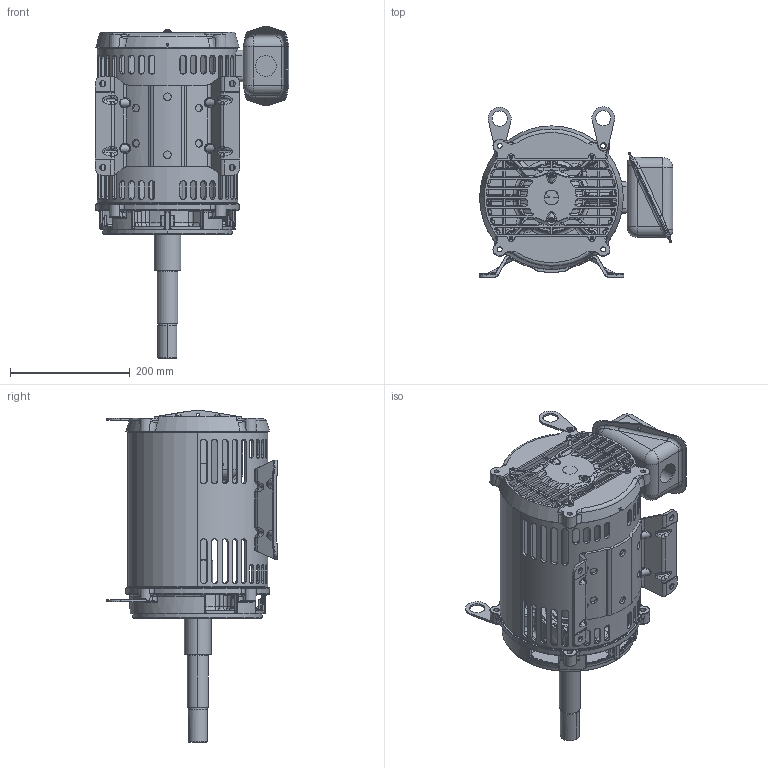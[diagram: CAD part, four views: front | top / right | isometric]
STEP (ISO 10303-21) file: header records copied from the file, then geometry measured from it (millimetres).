
FILE_DESCRIPTION((''),'2;1');
FILE_NAME('215_CCP_ASSY_ASM','2016-03-24T',('emd2341'),('Nidec Motor Corporation'),'PRO/ENGINEER BY PARAMETRIC TECHNOLOGY CORPORATION, 2013150','PRO/ENGINEER BY PARAMETRIC TECHNOLOGY CORPORATION, 2013150','');
FILE_SCHEMA(('CONFIG_CONTROL_DESIGN'));
Length unit declared in the file: inch
Products named in the file (15): 213_FRAME; 0391764-BKT_AF0; 0298010_AF0; 0391765_ASM; 0934404-BKT_AF0; 0362224_AF0; 0449861_ASM; 0172877; 0940737; 0390418; 0376890; 0951821; 0398344; 0398343; 215_CCP_ASSY_ASM
Assembly tree (15 placements, depth 3):
  215_CCP_ASSY_ASM
    213_FRAME
    0391765_ASM
      0391764-BKT_AF0
      0298010_AF0
    0449861_ASM
      0934404-BKT_AF0
      0362224_AF0
    0172877
    0940737
    0390418
    0376890  x2
    0951821
    0398344
    0398343
Bounding box: 323.09 x 283.72 x 553.65 mm (x, y, z)
Volume: 2703589.3 mm3; surface area: 1058510 mm2
Topology: 15 solids, 15 shells, 2678 faces, 6831 edges, 4168 vertices
Faces by surface type: bspline 698, cylinder 646, plane 597, cone 412, torus 247, sphere 78
Entity records: 115021 total; most frequent: CARTESIAN_POINT 55398, ORIENTED_EDGE 13606, DIRECTION 10911, EDGE_CURVE 6803, AXIS2_PLACEMENT_3D 4344, VERTEX_POINT 4152, EDGE_LOOP 2897, FACE_OUTER_BOUND 2668
